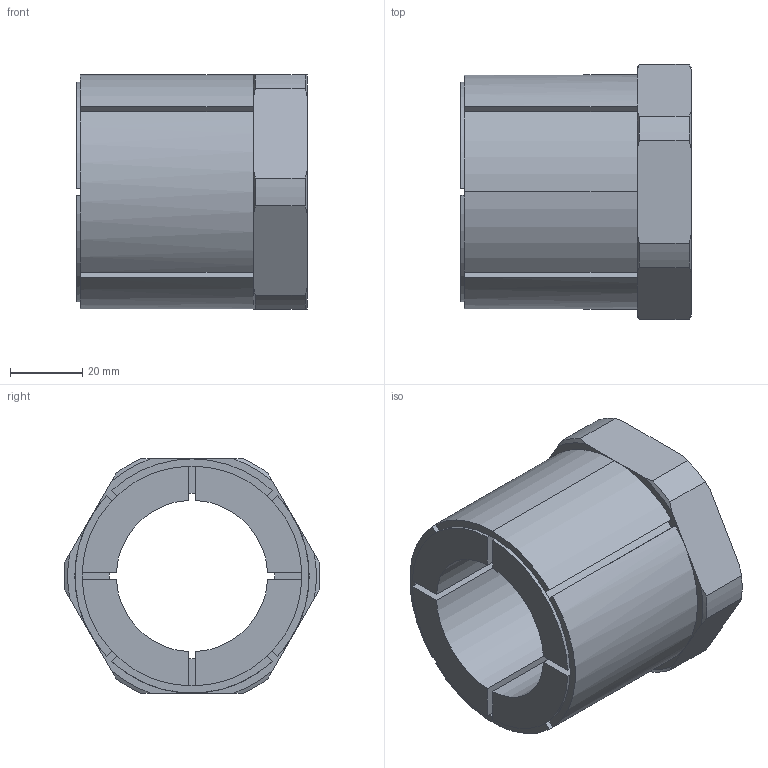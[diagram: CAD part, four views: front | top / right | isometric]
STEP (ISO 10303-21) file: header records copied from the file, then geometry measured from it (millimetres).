
FILE_DESCRIPTION (( 'STEP AP203' ), '1' );
FILE_NAME ('KBS 58 - 42 x 65.STEP', '2015-07-05T20:00:41', ( '' ), ( '' ), 'SwSTEP 2.0', 'SolidWorks 2010', '' );
FILE_SCHEMA (( 'CONFIG_CONTROL_DESIGN' ));
Length unit declared in the file: millimetre
Products named in the file (1): KBS 58 - 42 x 65
Bounding box: 64 x 70.95 x 65 mm (x, y, z)
Volume: 121863.5 mm3; surface area: 31644.5 mm2
Topology: 1 solids, 1 shells, 84 faces, 231 edges, 149 vertices
Faces by surface type: plane 42, cylinder 26, cone 16
Entity records: 2817 total; most frequent: CARTESIAN_POINT 585, ORIENTED_EDGE 462, DIRECTION 454, EDGE_CURVE 231, AXIS2_PLACEMENT_3D 170, VERTEX_POINT 149, LINE 114, VECTOR 114
